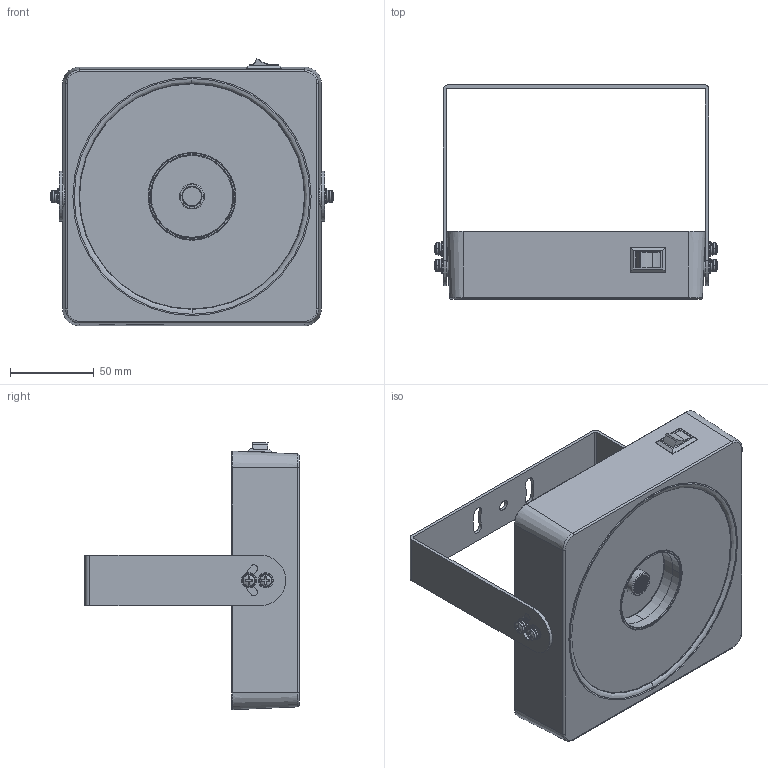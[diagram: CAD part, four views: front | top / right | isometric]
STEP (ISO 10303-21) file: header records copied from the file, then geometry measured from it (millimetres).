
FILE_DESCRIPTION((''),'2;1');
FILE_NAME('DH2-0005-2002_1_1','2023-02-24T08:32:33',('309191'),(''),'CREO PARAMETRIC BY PTC INC, 2020184','CREO PARAMETRIC BY PTC INC, 2020184','');
FILE_SCHEMA(('CONFIG_CONTROL_DESIGN','SHAPE_APPEARANCE_LAYERS_GROUPS'));
Products named in the file (1): DH2-0005-2002_1_1
Bounding box: 169.22 x 128 x 159.76 mm (x, y, z)
Volume: 871050.1 mm3; surface area: 155325.5 mm2
Topology: 1 solids, 55 shells, 2181 faces, 5683 edges, 3548 vertices
Faces by surface type: plane 1033, cylinder 468, bspline 267, cone 220, torus 179, sphere 10, extrusion 2, revolution 2
Entity records: 108713 total; most frequent: CARTESIAN_POINT 30665, ORIENTED_EDGE 11170, DIRECTION 10124, PRESENTATION_STYLE_ASSIGNMENT 6895, STYLED_ITEM 5638, CURVE_STYLE 5621, EDGE_CURVE 5617, VERTEX_POINT 3738
